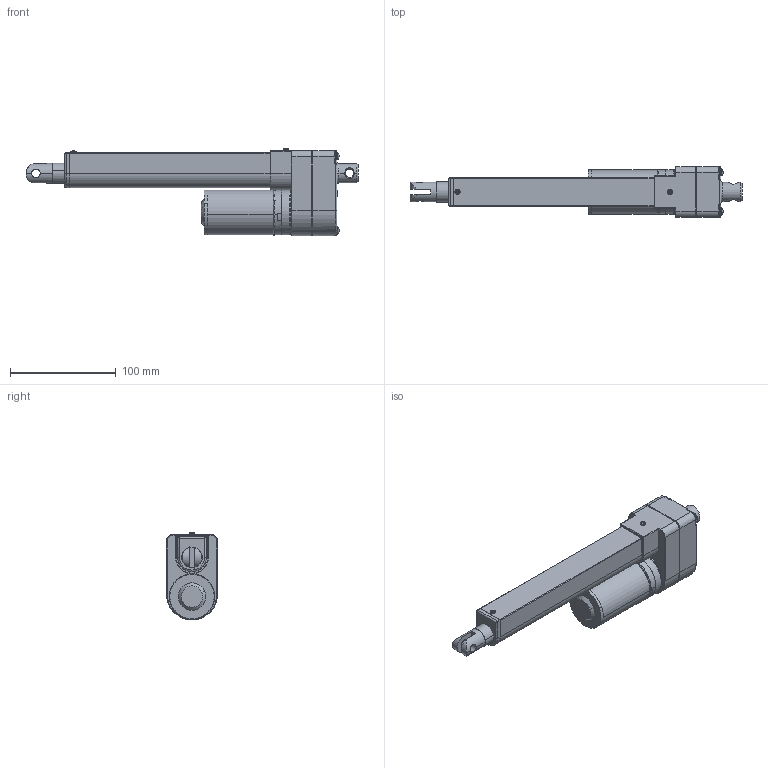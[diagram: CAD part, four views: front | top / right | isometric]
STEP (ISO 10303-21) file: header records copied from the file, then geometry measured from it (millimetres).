
FILE_DESCRIPTION (( 'STEP AP203' ), '1' );
FILE_NAME ('LAS2組合圖_Stroke=150.STEP', '2011-05-16T07:56:38', ( 'MH0164' ), ( '' ), 'SwSTEP 2.0', 'SolidWorks 2009', '' );
FILE_SCHEMA (( 'CONFIG_CONTROL_DESIGN' ));
Length unit declared in the file: millimetre
Products named in the file (1): LAS2組合圖_Stroke=150
Bounding box: 313.4 x 48 x 82.79 mm (x, y, z)
Surface area: 81330.5 mm2 (no closed solid volume)
Topology: 0 solids, 32 shells, 403 faces, 1479 edges, 1052 vertices
Faces by surface type: plane 164, cylinder 98, torus 77, bspline 45, cone 11, sphere 8
Entity records: 19676 total; most frequent: CARTESIAN_POINT 7721, DIRECTION 2344, ORIENTED_EDGE 2279, EDGE_CURVE 1461, VERTEX_POINT 1050, AXIS2_PLACEMENT_3D 816, LINE 712, VECTOR 712
